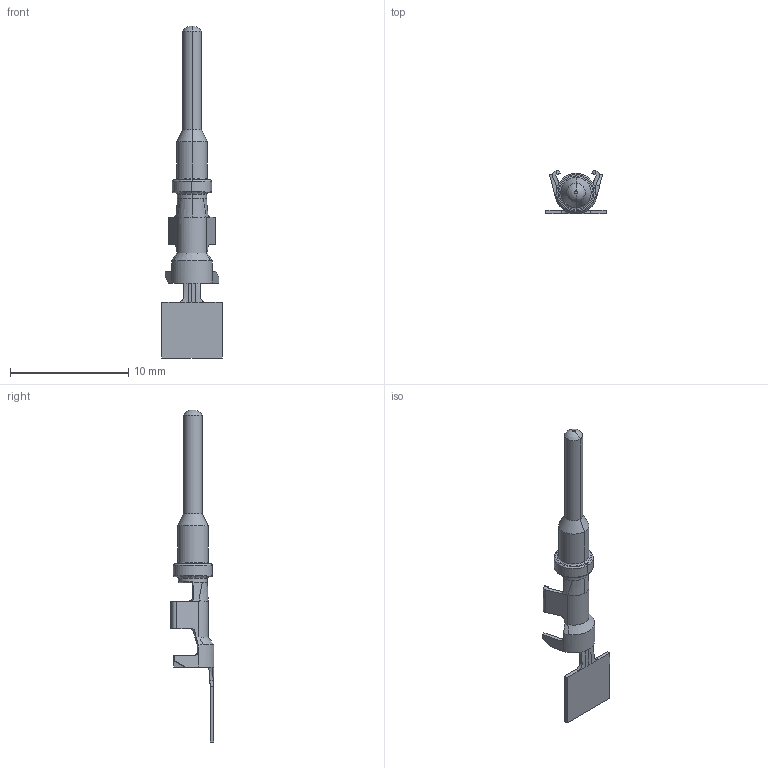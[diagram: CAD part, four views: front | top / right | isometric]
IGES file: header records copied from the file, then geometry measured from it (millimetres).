
Start section:  PTC IGES file: c-1060-16-0144-n-3d.igs
Global section: file name: c-1060-16-0144-n-3d.igs; native system: Creo Parametric by Parametric Technology Corporation; preprocessor: 2013050; author: workeradm; organization: Unknown; units: millimetre
Bounding box: 5.11 x 3.7 x 28.08 mm (x, y, z)
Surface area: 254.9 mm2 (no closed solid volume)
Topology: 0 solids, 0 shells, 111 faces, 552 edges, 552 vertices
Faces by surface type: bspline 74, revolution 37
